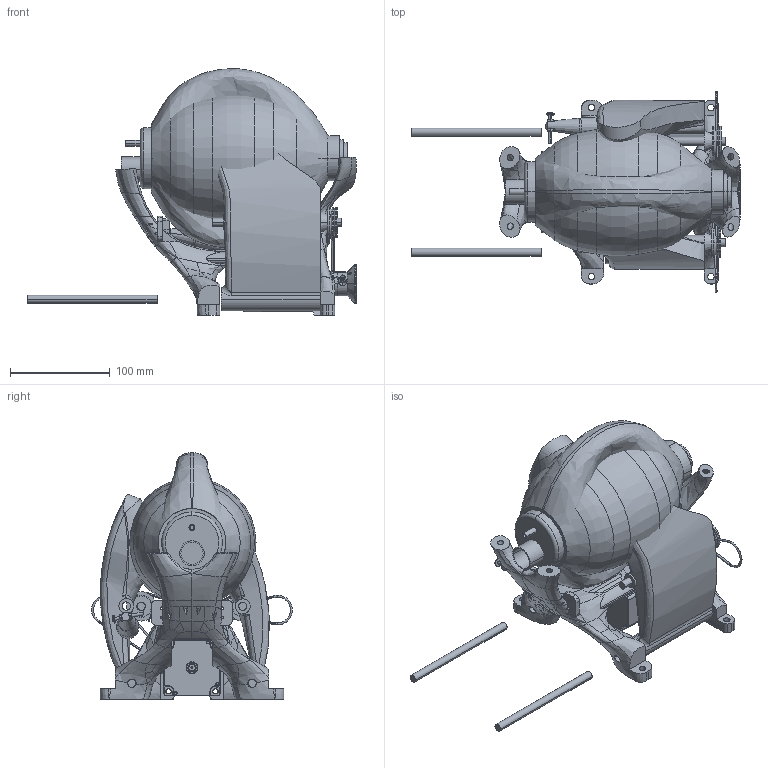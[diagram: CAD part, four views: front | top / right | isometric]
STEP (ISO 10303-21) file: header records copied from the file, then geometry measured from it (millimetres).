
FILE_DESCRIPTION(('STEP AP214'),'1');
FILE_NAME('rees31 v4.stp','2020-03-29T23:48:16',(' '),(' '),'Spatial InterOp 3D',' ',' ');
FILE_SCHEMA(('AUTOMOTIVE_DESIGN { 1 0 10303 214 1 1 1 1 }'));
Length unit declared in the file: metre
Products named in the file (36): paletas; paletas Geometry; separador; poleaLoca; poleaLoca Geometry; 608; paleta nuev der; paleta nuev der Geometry; endstop; paleta izq; rees31 v4; bolsa; comprimida; expandida; bag; picos; pico superior; pico inferior; conjunto motor; nema23; polea2; tornillo m3; poleaChica; poleaGrande; polea; insulator; cuna; cuna Geometry; soportes bolsa; switch; cuerda cerrada; cuerda abierta; enganche cuerda; 8mm rail; threaded rod
Assembly tree (39 placements, depth 5):
  rees31 v4
    paletas
      paletas Geometry
      separador  x3
      poleaLoca
        poleaLoca Geometry
        608
      poleaLoca
        poleaLoca Geometry
        608
      paleta nuev der
        paleta nuev der Geometry
        endstop
      paleta izq
    bolsa
      comprimida
      expandida
        bag
      picos
        pico superior
        pico inferior
    conjunto motor
      nema23
      polea2
        tornillo m3
        poleaChica
        poleaGrande
          polea
      insulator
    cuna
      cuna Geometry
      soportes bolsa
    switch
    cuerda cerrada
    cuerda abierta
    enganche cuerda
    8mm rail
    threaded rod
Bounding box: 330.26 x 201.71 x 247.67 mm (x, y, z)
Volume: 4257109 mm3; surface area: 456247.6 mm2
Topology: 33 solids, 33 shells, 2024 faces, 5211 edges, 3286 vertices
Faces by surface type: plane 535, cylinder 523, bspline 404, extrusion 302, torus 168, cone 89, sphere 3
Entity records: 134137 total; most frequent: CARTESIAN_POINT 72721, ORIENTED_EDGE 10126, DIRECTION 7644, EDGE_CURVE 5063, VERTEX_POINT 3197, AXIS2_PLACEMENT_3D 2817, EDGE_LOOP 2192, B_SPLINE_CURVE_WITH_KNOTS 2160
